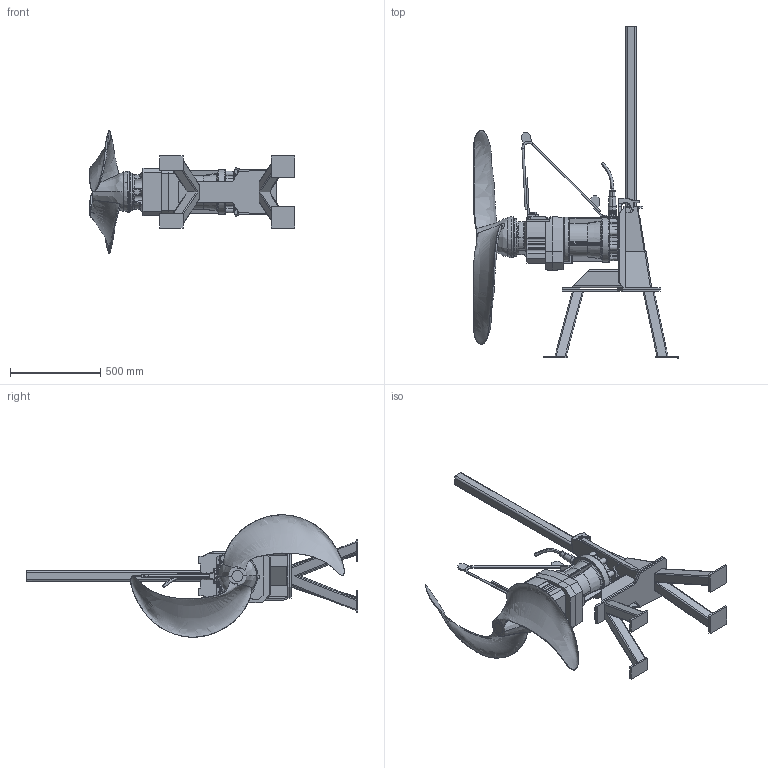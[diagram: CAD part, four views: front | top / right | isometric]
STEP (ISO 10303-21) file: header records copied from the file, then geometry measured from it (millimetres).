
FILE_DESCRIPTION (( 'STEP AP214' ), '1' );
FILE_NAME ('SB1200 Steel pedestal 380_MSD.STEP', '2017-03-31T06:49:36', ( '' ), ( '' ), 'SwSTEP 2.0', 'SolidWorks 2017', '' );
FILE_SCHEMA (( 'AUTOMOTIVE_DESIGN' ));
Length unit declared in the file: millimetre
Products named in the file (1): SB1200 Steel pedestal 380_MSD
Bounding box: 1140.17 x 1841.99 x 679.19 mm (x, y, z)
Volume: 58188160.1 mm3; surface area: 3449946.5 mm2
Topology: 7 solids, 8 shells, 1465 faces, 3665 edges, 2168 vertices
Faces by surface type: plane 457, cylinder 352, bspline 266, torus 228, sphere 83, cone 79
Entity records: 182402 total; most frequent: CARTESIAN_POINT 133250, ORIENTED_EDGE 7182, DIRECTION 6758, EDGE_CURVE 3591, AXIS2_PLACEMENT_3D 2662, VERTEX_POINT 2156, EDGE_LOOP 1509, UNCERTAINTY_MEASURE_WITH_UNIT 1474
